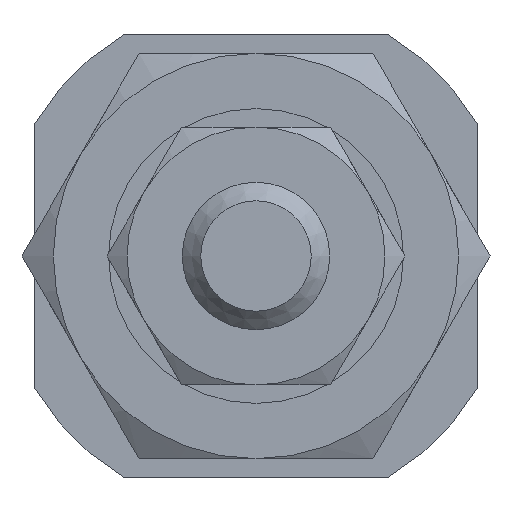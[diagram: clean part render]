
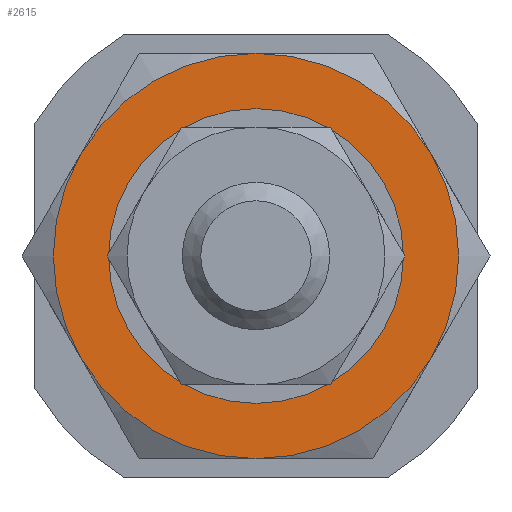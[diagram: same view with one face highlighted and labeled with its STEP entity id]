
A CAD part, left-side view. The second image highlights one B-rep face of the part: STEP entity #2615.
In plain terms, the highlighted planar face has unit normal (-1, 0, 0).
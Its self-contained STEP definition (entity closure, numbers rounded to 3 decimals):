
#844=CARTESIAN_POINT('',(-50.899,4.763,-2.75));
#845=VERTEX_POINT('',#844);
#861=CARTESIAN_POINT('',(-50.899,4.763,2.75));
#862=VERTEX_POINT('',#861);
#863=CARTESIAN_POINT('',(-50.899,0.,0.0));
#864=DIRECTION('',(-1.0,0.0,0.0));
#865=DIRECTION('',(0.0,-1.0,0.0));
#866=AXIS2_PLACEMENT_3D('',#863,#864,#865);
#867=CIRCLE('',#866,5.5);
#868=EDGE_CURVE('',#862,#845,#867,.T.);
#893=CARTESIAN_POINT('',(-50.899,0.,5.5));
#894=VERTEX_POINT('',#893);
#921=CARTESIAN_POINT('',(-50.899,0.,0.0));
#922=DIRECTION('',(-1.0,0.0,0.0));
#923=DIRECTION('',(0.0,-1.0,0.0));
#924=AXIS2_PLACEMENT_3D('',#921,#922,#923);
#925=CIRCLE('',#924,5.5);
#926=EDGE_CURVE('',#894,#862,#925,.T.);
#936=CARTESIAN_POINT('',(-50.899,0.,-5.5));
#937=VERTEX_POINT('',#936);
#953=CARTESIAN_POINT('',(-50.899,0.,0.0));
#954=DIRECTION('',(-1.0,0.0,0.0));
#955=DIRECTION('',(0.0,-1.0,0.0));
#956=AXIS2_PLACEMENT_3D('',#953,#954,#955);
#957=CIRCLE('',#956,5.5);
#958=EDGE_CURVE('',#845,#937,#957,.T.);
#983=CARTESIAN_POINT('',(-50.899,-4.763,2.75));
#984=VERTEX_POINT('',#983);
#1011=CARTESIAN_POINT('',(-50.899,0.,0.0));
#1012=DIRECTION('',(-1.0,0.0,0.0));
#1013=DIRECTION('',(0.0,-1.0,0.0));
#1014=AXIS2_PLACEMENT_3D('',#1011,#1012,#1013);
#1015=CIRCLE('',#1014,5.5);
#1016=EDGE_CURVE('',#984,#894,#1015,.T.);
#1026=CARTESIAN_POINT('',(-50.899,-4.763,-2.75));
#1027=VERTEX_POINT('',#1026);
#1043=CARTESIAN_POINT('',(-50.899,0.,0.0));
#1044=DIRECTION('',(-1.0,0.0,0.0));
#1045=DIRECTION('',(0.0,-1.0,0.0));
#1046=AXIS2_PLACEMENT_3D('',#1043,#1044,#1045);
#1047=CIRCLE('',#1046,5.5);
#1048=EDGE_CURVE('',#937,#1027,#1047,.T.);
#1086=CARTESIAN_POINT('',(-50.899,0.,0.0));
#1087=DIRECTION('',(-1.0,0.0,0.0));
#1088=DIRECTION('',(0.0,-1.0,0.0));
#1089=AXIS2_PLACEMENT_3D('',#1086,#1087,#1088);
#1090=CIRCLE('',#1089,5.5);
#1091=EDGE_CURVE('',#1027,#984,#1090,.T.);
#2591=CARTESIAN_POINT('',(-50.899,5.75,0.0));
#2592=DIRECTION('',(-1.0,0.0,0.0));
#2593=DIRECTION('',(0.0,0.0,1.0));
#2594=AXIS2_PLACEMENT_3D('',#2591,#2592,#2593);
#2595=PLANE('',#2594);
#2596=ORIENTED_EDGE('',*,*,#868,.T.);
#2597=ORIENTED_EDGE('',*,*,#958,.T.);
#2598=ORIENTED_EDGE('',*,*,#1048,.T.);
#2599=ORIENTED_EDGE('',*,*,#1091,.T.);
#2600=ORIENTED_EDGE('',*,*,#1016,.T.);
#2601=ORIENTED_EDGE('',*,*,#926,.T.);
#2602=EDGE_LOOP('',(#2596,#2597,#2598,#2599,#2600,#2601));
#2603=FACE_OUTER_BOUND('',#2602,.T.);
#2604=CARTESIAN_POINT('',(-50.899,4.,0.0));
#2605=VERTEX_POINT('',#2604);
#2606=CARTESIAN_POINT('',(-50.899,0.,0.0));
#2607=DIRECTION('',(-1.0,0.0,0.0));
#2608=DIRECTION('',(0.0,1.0,0.0));
#2609=AXIS2_PLACEMENT_3D('',#2606,#2607,#2608);
#2610=CIRCLE('',#2609,4.);
#2611=EDGE_CURVE('',#2605,#2605,#2610,.T.);
#2612=ORIENTED_EDGE('',*,*,#2611,.F.);
#2613=EDGE_LOOP('',(#2612));
#2614=FACE_BOUND('',#2613,.T.);
#2615=ADVANCED_FACE('',(#2603,#2614),#2595,.T.);
